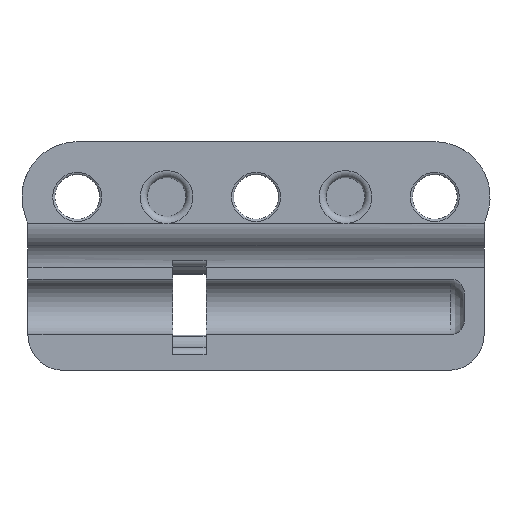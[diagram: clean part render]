
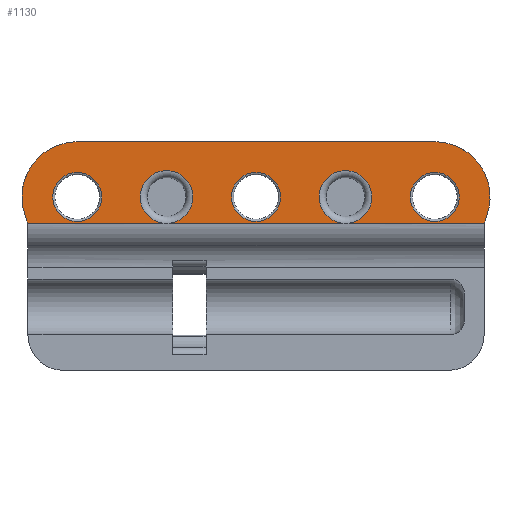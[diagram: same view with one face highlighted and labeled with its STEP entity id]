
A CAD part, front view. The second image highlights one B-rep face of the part: STEP entity #1130.
In plain terms, the highlighted planar face has unit normal (0, -1, 0).
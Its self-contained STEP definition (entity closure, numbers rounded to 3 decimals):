
#16=FACE_BOUND('',#141,.T.);
#17=FACE_BOUND('',#142,.T.);
#18=FACE_BOUND('',#143,.T.);
#25=PLANE('',#1241);
#74=FACE_OUTER_BOUND('',#140,.T.);
#140=EDGE_LOOP('',(#814,#815,#816,#817,#818,#819,#820,#821,#822,#823));
#141=EDGE_LOOP('',(#824));
#142=EDGE_LOOP('',(#825));
#143=EDGE_LOOP('',(#826));
#195=CIRCLE('',#1194,5.);
#205=CIRCLE('',#1208,5.);
#211=CIRCLE('',#1217,7.85);
#215=CIRCLE('',#1222,3.75);
#221=CIRCLE('',#1231,3.75);
#223=CIRCLE('',#1237,3.475);
#227=CIRCLE('',#1242,7.85);
#228=CIRCLE('',#1243,3.475);
#229=CIRCLE('',#1244,3.475);
#311=LINE('',#1956,#374);
#312=LINE('',#1971,#375);
#314=LINE('',#1975,#377);
#317=LINE('',#2004,#380);
#374=VECTOR('',#1438,10.);
#375=VECTOR('',#1439,10.);
#377=VECTOR('',#1443,10.);
#380=VECTOR('',#1482,10.);
#435=VERTEX_POINT('',#1763);
#439=VERTEX_POINT('',#1773);
#452=VERTEX_POINT('',#1854);
#453=VERTEX_POINT('',#1855);
#462=VERTEX_POINT('',#1929);
#463=VERTEX_POINT('',#1933);
#467=VERTEX_POINT('',#1946);
#468=VERTEX_POINT('',#1955);
#470=VERTEX_POINT('',#1964);
#476=VERTEX_POINT('',#1994);
#479=VERTEX_POINT('',#2002);
#480=VERTEX_POINT('',#2005);
#481=VERTEX_POINT('',#2007);
#551=EDGE_CURVE('',#439,#435,#195,.T.);
#568=EDGE_CURVE('',#452,#453,#205,.F.);
#581=EDGE_CURVE('',#462,#452,#211,.T.);
#588=EDGE_CURVE('',#467,#463,#215,.T.);
#589=EDGE_CURVE('',#463,#468,#311,.T.);
#592=EDGE_CURVE('',#470,#453,#312,.T.);
#595=EDGE_CURVE('',#435,#467,#314,.F.);
#601=EDGE_CURVE('',#468,#470,#221,.T.);
#604=EDGE_CURVE('',#476,#476,#223,.T.);
#608=EDGE_CURVE('',#439,#479,#227,.T.);
#609=EDGE_CURVE('',#462,#479,#317,.T.);
#610=EDGE_CURVE('',#480,#480,#228,.T.);
#611=EDGE_CURVE('',#481,#481,#229,.T.);
#814=ORIENTED_EDGE('',*,*,#588,.F.);
#815=ORIENTED_EDGE('',*,*,#595,.F.);
#816=ORIENTED_EDGE('',*,*,#551,.F.);
#817=ORIENTED_EDGE('',*,*,#608,.T.);
#818=ORIENTED_EDGE('',*,*,#609,.F.);
#819=ORIENTED_EDGE('',*,*,#581,.T.);
#820=ORIENTED_EDGE('',*,*,#568,.T.);
#821=ORIENTED_EDGE('',*,*,#592,.F.);
#822=ORIENTED_EDGE('',*,*,#601,.F.);
#823=ORIENTED_EDGE('',*,*,#589,.F.);
#824=ORIENTED_EDGE('',*,*,#610,.F.);
#825=ORIENTED_EDGE('',*,*,#611,.F.);
#826=ORIENTED_EDGE('',*,*,#604,.F.);
#1130=ADVANCED_FACE('',(#74,#16,#17,#18),#25,.T.);
#1194=AXIS2_PLACEMENT_3D('',#1775,#1368,#1369);
#1208=AXIS2_PLACEMENT_3D('',#1856,#1401,#1402);
#1217=AXIS2_PLACEMENT_3D('',#1930,#1423,#1424);
#1222=AXIS2_PLACEMENT_3D('',#1953,#1434,#1435);
#1231=AXIS2_PLACEMENT_3D('',#1986,#1457,#1458);
#1237=AXIS2_PLACEMENT_3D('',#1995,#1470,#1471);
#1241=AXIS2_PLACEMENT_3D('',#2001,#1478,#1479);
#1242=AXIS2_PLACEMENT_3D('',#2003,#1480,#1481);
#1243=AXIS2_PLACEMENT_3D('',#2006,#1483,#1484);
#1244=AXIS2_PLACEMENT_3D('',#2008,#1485,#1486);
#1368=DIRECTION('center_axis',(0.,-1.,0.));
#1369=DIRECTION('ref_axis',(-0.983,0.,0.182));
#1401=DIRECTION('center_axis',(0.,-1.,0.));
#1402=DIRECTION('ref_axis',(0.983,0.,0.182));
#1423=DIRECTION('center_axis',(0.,-1.,0.));
#1424=DIRECTION('ref_axis',(0.,0.,1.));
#1434=DIRECTION('center_axis',(0.,-1.,0.));
#1435=DIRECTION('ref_axis',(1.,0.,0.));
#1438=DIRECTION('',(-1.,0.,0.));
#1439=DIRECTION('',(-1.,0.,0.));
#1443=DIRECTION('',(1.,0.,0.));
#1457=DIRECTION('center_axis',(0.,-1.,0.));
#1458=DIRECTION('ref_axis',(1.,0.,0.));
#1470=DIRECTION('center_axis',(0.,-1.,0.));
#1471=DIRECTION('ref_axis',(-1.,0.,0.));
#1478=DIRECTION('center_axis',(0.,-1.,0.));
#1479=DIRECTION('ref_axis',(0.,0.,-1.));
#1480=DIRECTION('center_axis',(0.,-1.,0.));
#1481=DIRECTION('ref_axis',(0.892,0.,-0.453));
#1482=DIRECTION('',(1.,0.,0.));
#1483=DIRECTION('center_axis',(0.,-1.,0.));
#1484=DIRECTION('ref_axis',(-1.,0.,0.));
#1485=DIRECTION('center_axis',(0.,-1.,0.));
#1486=DIRECTION('ref_axis',(-1.,0.,0.));
#1763=CARTESIAN_POINT('',(32.479,-3.,-3.71));
#1773=CARTESIAN_POINT('',(32.731,-3.,-2.808));
#1775=CARTESIAN_POINT('Origin',(37.4,-3.,-4.596));
#1854=CARTESIAN_POINT('',(-32.731,-3.,-2.808));
#1855=CARTESIAN_POINT('',(-32.479,-3.,-3.71));
#1856=CARTESIAN_POINT('Origin',(-37.4,-3.,-4.596));
#1929=CARTESIAN_POINT('',(-25.4,-3.,7.85));
#1930=CARTESIAN_POINT('Origin',(-25.4,-3.,0.));
#1933=CARTESIAN_POINT('',(12.151,-3.,-3.71));
#1946=CARTESIAN_POINT('',(13.249,-3.,-3.71));
#1953=CARTESIAN_POINT('Origin',(12.7,-3.,0.));
#1955=CARTESIAN_POINT('',(-12.151,-3.,-3.71));
#1956=CARTESIAN_POINT('',(-32.4,-3.,-3.71));
#1964=CARTESIAN_POINT('',(-13.249,-3.,-3.71));
#1971=CARTESIAN_POINT('',(-32.4,-3.,-3.71));
#1975=CARTESIAN_POINT('',(-32.4,-3.,-3.71));
#1986=CARTESIAN_POINT('Origin',(-12.7,-3.,0.));
#1994=CARTESIAN_POINT('',(25.4,-3.,-3.475));
#1995=CARTESIAN_POINT('Origin',(25.4,-3.,0.));
#2001=CARTESIAN_POINT('Origin',(-32.4,-3.,7.));
#2002=CARTESIAN_POINT('',(25.4,-3.,7.85));
#2003=CARTESIAN_POINT('Origin',(25.4,-3.,0.));
#2004=CARTESIAN_POINT('',(-25.4,-3.,7.85));
#2005=CARTESIAN_POINT('',(0.,-3.,-3.475));
#2006=CARTESIAN_POINT('Origin',(0.,-3.,0.));
#2007=CARTESIAN_POINT('',(-25.4,-3.,-3.475));
#2008=CARTESIAN_POINT('Origin',(-25.4,-3.,0.));
